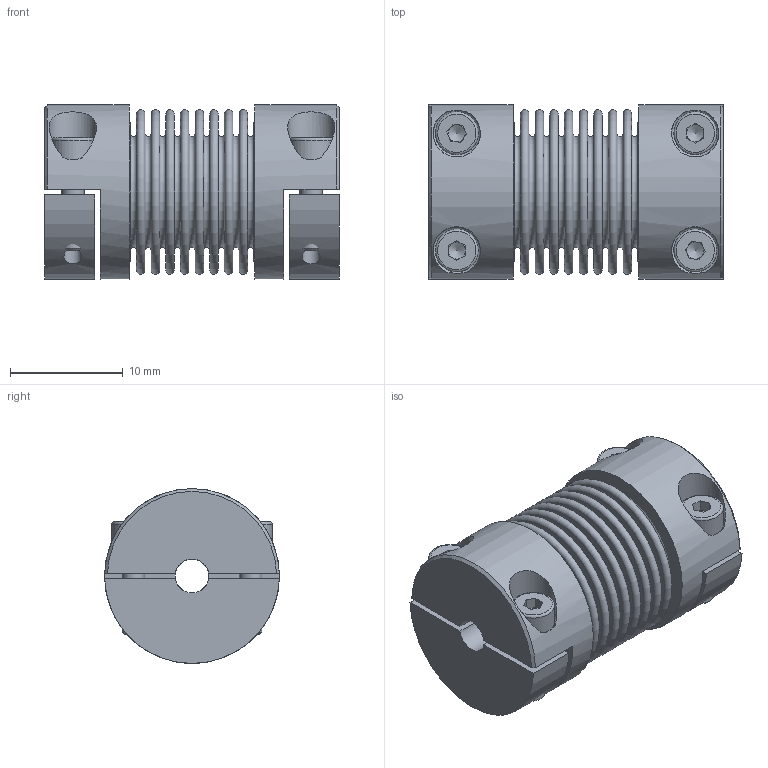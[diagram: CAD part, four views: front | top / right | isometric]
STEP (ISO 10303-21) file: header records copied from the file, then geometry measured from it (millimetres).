
FILE_DESCRIPTION( ( 'Unknown' ), '1' );
FILE_NAME( 'K:/Konstruktion/KB2H/KB2H-5-25.stp', 'Unknown', ( 'Unknown' ), ( 'Unknown' ), 'PSStep 16.0.42', 'Unknown', ' ' );
FILE_SCHEMA( ( 'AUTOMOTIVE_DESIGN { 1 0 10303 214 1 1 1 1 }' ) );
Length unit declared in the file: millimetre
Products named in the file (5): Assem1; KNH-5; Socket Head Cap Screw_DIN_DIN 912 M2 x 8 --- 8N_11; BM5_Standard_1
Assembly tree (9 placements, depth 2):
  Assem1
    KNH-5  x2
    KNH-5  x2
    Socket Head Cap Screw_DIN_DIN 912 M2 x 8 --- 8N_11  x4
    BM5_Standard_1
Bounding box: 26.15 x 15.5 x 15.5 mm (x, y, z)
Volume: 2719.5 mm3; surface area: 6686.7 mm2
Topology: 9 solids, 9 shells, 212 faces, 418 edges, 266 vertices
Faces by surface type: plane 120, torus 50, cylinder 32, cone 10
Full cylindrical faces by diameter (mm): 1.567 x4, 2 x4, 2.2 x4, 3 x2, 3.8 x4, 12.9 x2, 13.1 x2, 15.5 x2
Entity records: 4128 total; most frequent: CARTESIAN_POINT 645, DIRECTION 538, ORIENTED_EDGE 324, AXIS2_PLACEMENT_3D 249, EDGE_LOOP 231, FACE_OUTER_BOUND 179, EDGE_CURVE 162, VERTEX_POINT 156
